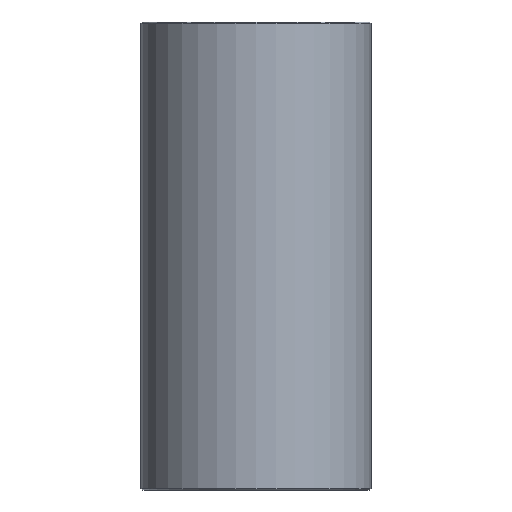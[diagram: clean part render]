
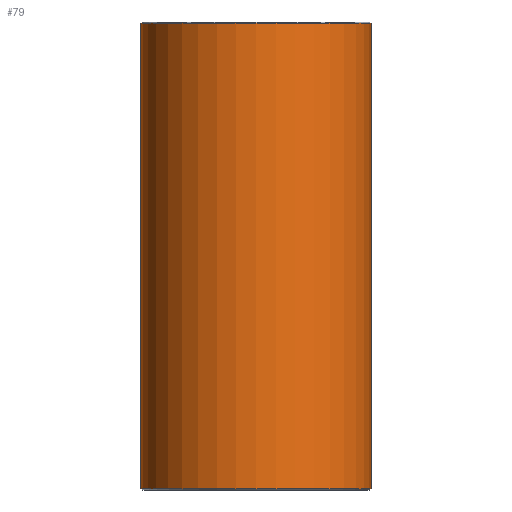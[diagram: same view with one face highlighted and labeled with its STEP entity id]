
A CAD part, front view. The second image highlights one B-rep face of the part: STEP entity #79.
In plain terms, the highlighted cylindrical face has radius 15.5 mm (diameter 31 mm), a full revolution.
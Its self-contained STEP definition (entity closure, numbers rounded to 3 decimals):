
#79=ADVANCED_FACE('',(#96,#97),#98,.T.);
#96=FACE_OUTER_BOUND('',#120,.T.);
#97=FACE_OUTER_BOUND('',#121,.T.);
#98=CYLINDRICAL_SURFACE('',#122,15.5);
#120=EDGE_LOOP('',(#152));
#121=EDGE_LOOP('',(#153));
#122=AXIS2_PLACEMENT_3D('',#154,#155,#156);
#152=ORIENTED_EDGE('',*,*,#178,.T.);
#153=ORIENTED_EDGE('',*,*,#177,.T.);
#154=CARTESIAN_POINT('',(0.0,0.0,63.0));
#155=DIRECTION('',(0.0,0.0,-1.0));
#156=DIRECTION('',(-1.0,0.0,0.0));
#177=EDGE_CURVE('',#190,#190,#191,.T.);
#178=EDGE_CURVE('',#192,#192,#193,.F.);
#190=VERTEX_POINT('',#206);
#191=CIRCLE('',#207,15.5);
#192=VERTEX_POINT('',#208);
#193=CIRCLE('',#209,15.5);
#206=CARTESIAN_POINT('',(15.5,0.0,0.2));
#207=AXIS2_PLACEMENT_3D('',#227,#228,#229);
#208=CARTESIAN_POINT('',(15.5,0.,62.8));
#209=AXIS2_PLACEMENT_3D('',#230,#231,#232);
#227=CARTESIAN_POINT('',(0.0,0.0,0.2));
#228=DIRECTION('',(0.0,0.0,1.0));
#229=DIRECTION('',(1.0,0.0,0.0));
#230=CARTESIAN_POINT('',(0.0,0.0,62.8));
#231=DIRECTION('',(0.0,0.0,1.0));
#232=DIRECTION('',(1.0,0.0,0.0));
